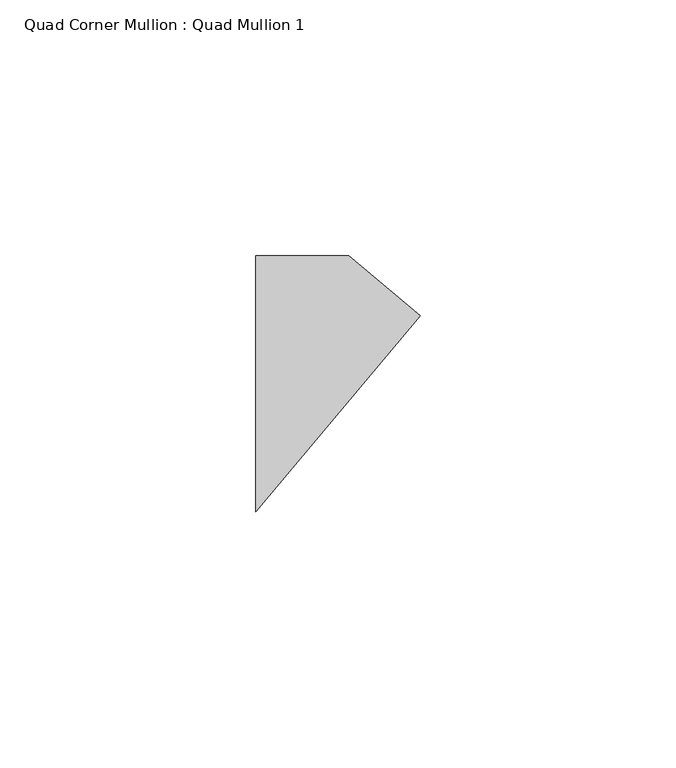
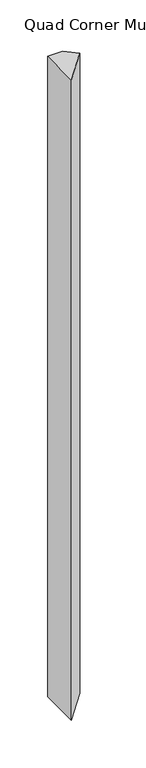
"""IFC4 building model written with IfcOpenShell, lengths in millimetres: member geometry, Quad Corner Mullion : Quad Mullion 1."""

from ifc_helpers import new_model, si_unit, frame, origin, place, context, project, spatial, polyline, outline, extrude, source, transform, mapped, element, save


def quad_corner_mullion_quad_mullion_1_1a5a5ec2(model_context):
    return source(origin(), model_context, "Body", "SweptSolid", [
        extrude(outline(polyline([(23.0401246, 13.3022222), (-9.0992559, -25.0), (-9.0992559, 25.0), (9.0992559, 25.0), (23.0401246, 13.3022222)])), frame((0.0, 0.0, -820.0), z_axis=(0.0, 0.0, 1.0), x_axis=(1.0, 0.0, 0.0)), (0.0, 0.0, 1.0), 820.0),
    ])


if __name__ == "__main__":
    model = new_model("IFC4")
    model_context = context("Model", 3, world=origin())
    ifc_project = project(units=[si_unit("LENGTHUNIT", "METRE", prefix="MILLI")], contexts=[model_context])
    site = spatial("IfcSite", under=ifc_project)
    building = spatial("IfcBuilding", under=site)
    placement = place(None, origin())
    quad_corner_mullion_quad_mullion_1_shape = quad_corner_mullion_quad_mullion_1_1a5a5ec2(model_context)
    element("IfcMember", 1, ObjectType="Quad Corner Mullion : Quad Mullion 1", at=placement, inside=building, context=model_context, shape_type="MappedRepresentation", body=[
        mapped(quad_corner_mullion_quad_mullion_1_shape, transform((0.0, 0.0, 0.0), x_axis=(1.0, 0.0, 0.0), y_axis=(0.0, 1.0, 0.0), z_axis=(0.0, 0.0, 1.0))),
    ])
    save(model, "model.ifc")
